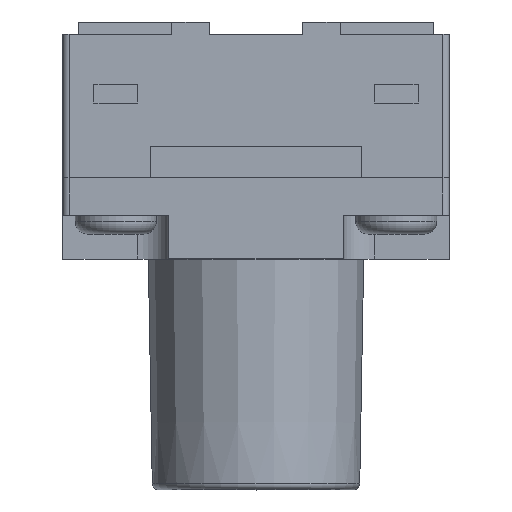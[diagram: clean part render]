
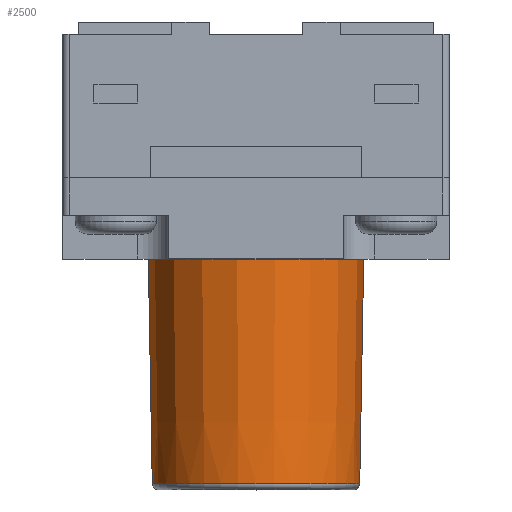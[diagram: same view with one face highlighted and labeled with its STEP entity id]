
A CAD part, top view. The second image highlights one B-rep face of the part: STEP entity #2500.
In plain terms, the highlighted conical face has half-angle 1 degrees and reference radius 1.707 mm.
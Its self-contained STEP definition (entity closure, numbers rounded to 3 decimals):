
#26=CARTESIAN_POINT('',(0.,0.,0.));
#27=DIRECTION('',(0.,-1.,0.));
#28=DIRECTION('',(1.,0.,0.));
#29=AXIS2_PLACEMENT_3D('',#26,#27,#28);
#278=CARTESIAN_POINT('',(0.,-4.902,0.));
#279=DIRECTION('',(0.,-1.,0.));
#280=DIRECTION('',(1.,0.,0.));
#281=AXIS2_PLACEMENT_3D('',#278,#279,#280);
#286=DIRECTION('',(-0.017,1.,0.));
#287=VECTOR('',#286,4.902);
#288=CARTESIAN_POINT('',(-1.664,-4.902,
0.));
#289=LINE('',#288,#287);
#333=DIRECTION('',(-0.017,-1.,0.));
#334=VECTOR('',#333,4.902);
#335=CARTESIAN_POINT('',(1.75,0.,0.));
#336=LINE('',#335,#334);
#2052=CARTESIAN_POINT('',(1.75,0.,0.));
#2053=CARTESIAN_POINT('',(-1.75,0.,0.));
#2054=VERTEX_POINT('',#2052);
#2055=VERTEX_POINT('',#2053);
#2124=CARTESIAN_POINT('',(-1.664,-4.902,0.));
#2125=CARTESIAN_POINT('',(1.664,-4.902,0.));
#2126=VERTEX_POINT('',#2124);
#2127=VERTEX_POINT('',#2125);
#2486=CARTESIAN_POINT('',(0.,-2.451,0.));
#2487=DIRECTION('',(0.,1.,0.));
#2488=DIRECTION('',(-1.,0.,0.));
#2489=AXIS2_PLACEMENT_3D('',#2486,#2487,#2488);
#2490=CONICAL_SURFACE('',#2489,1.707,1.);
#2492=ORIENTED_EDGE('',*,*,#2491,.T.);
#2494=ORIENTED_EDGE('',*,*,#2493,.T.);
#2495=ORIENTED_EDGE('',*,*,#2479,.F.);
#2497=ORIENTED_EDGE('',*,*,#2496,.T.);
#2498=EDGE_LOOP('',(#2492,#2494,#2495,#2497));
#2499=FACE_OUTER_BOUND('',#2498,.F.);
#30=CIRCLE('',#29,1.75);
#282=CIRCLE('',#281,1.664);
#2479=EDGE_CURVE('',#2054,#2055,#30,.T.);
#2491=EDGE_CURVE('',#2127,#2126,#282,.T.);
#2493=EDGE_CURVE('',#2126,#2055,#289,.T.);
#2496=EDGE_CURVE('',#2054,#2127,#336,.T.);
#2500=ADVANCED_FACE('',(#2499),#2490,.T.);
